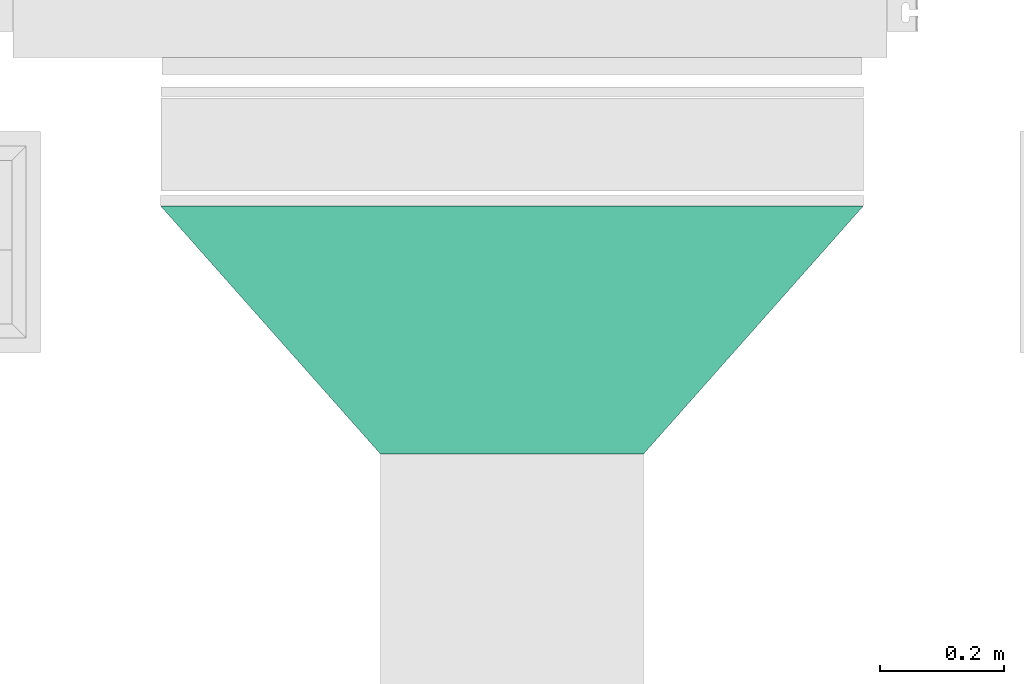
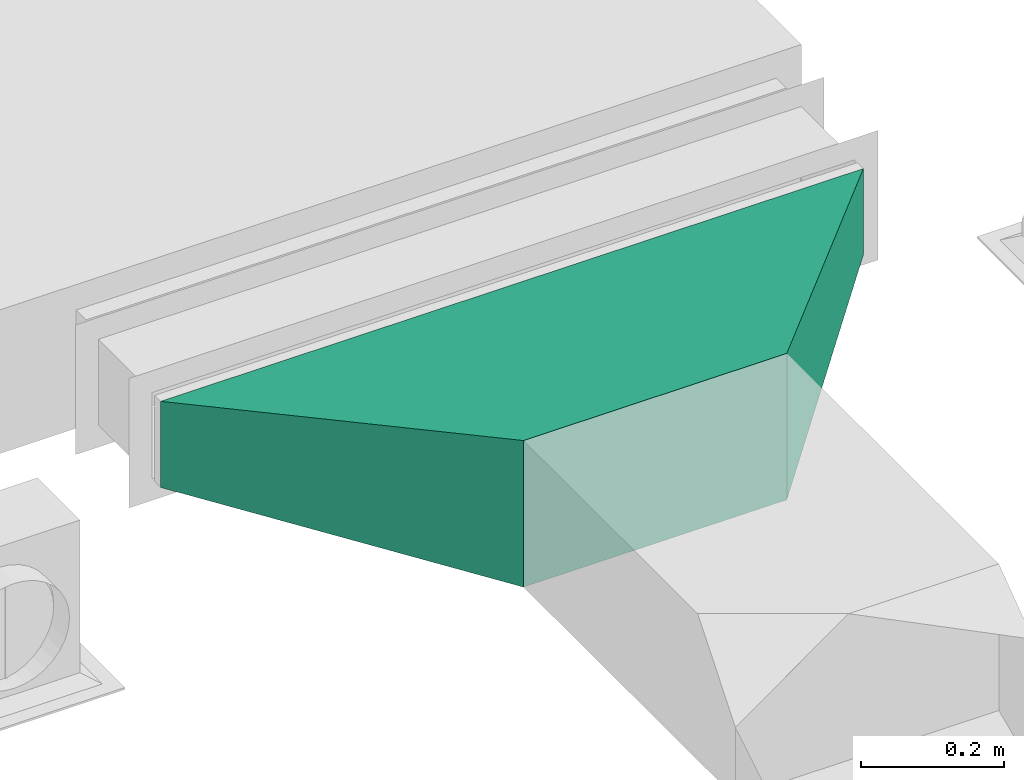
# One storey, part 15 of 22: 1 flow fitting.
"""IFC2X3 building model written with IfcOpenShell, lengths in millimetres."""

import ifcopenshell
import ifcopenshell.guid

model = None  # the IFC model being written
_history = None  # IfcOwnerHistory: only IFC2X3 demands one
_inside = {}  # id of a spatial element -> (the spatial element, [elements in it])
_under = {}  # id of a project, library or spatial element -> (it, [spatial elements below it])
_declared = {}  # id of a project -> (the project, [libraries it declares])
_typed = {}  # id of a type object -> (the type object, [elements of that type])
_made_of = {}  # id of a material, layer set ... -> (it, [elements and type objects made of it])


def new_model(schema):
    """Start an empty IFC model of exactly this schema.

    Asked for "IFC4X3", IfcOpenShell would pick the latest addendum, in which some entities
    have other attributes; the version numbers below select the first issue.
    IFC2X3 requires an IfcOwnerHistory on every rooted entity: one is made here for all.
    """
    global model, _history
    if schema == "IFC4X3":
        model = ifcopenshell.file(schema_version=(4, 3, 0, 0))
    else:
        model = ifcopenshell.file(schema=schema)
    _inside.clear()
    _under.clear()
    _declared.clear()
    _typed.clear()
    _made_of.clear()
    _history = None
    if model.schema == "IFC2X3":
        org = make("IfcOrganization", Name="unknown")
        user = make(
            "IfcPersonAndOrganization",
            ThePerson=make("IfcPerson", FamilyName="unknown"),
            TheOrganization=org,
        )
        app = make(
            "IfcApplication",
            ApplicationDeveloper=org,
            Version="unknown",
            ApplicationFullName="unknown",
            ApplicationIdentifier="unknown",
        )
        _history = make(
            "IfcOwnerHistory",
            OwningUser=user,
            OwningApplication=app,
            ChangeAction="ADDED",
            CreationDate=0,
        )
    return model


def make(cls, **values):
    """One entity of the class cls with the attributes given. An attribute that is None is left unset."""
    return model.create_entity(
        cls, **{name: value for name, value in values.items() if value is not None}
    )


def entity(cls, *values):
    """Any entity or typed value of the class cls, its attributes in the order of the schema. None: left unset."""
    e = model.create_entity(cls)
    for i, value in enumerate(values):
        if value is not None:
            e[i] = value
    return e


def rooted(cls, **values):
    """An entity with a GlobalId (a new one), such as an element, a storey or a relation."""
    return make(cls, GlobalId=ifcopenshell.guid.new(), OwnerHistory=_history, **values)


def si_unit(unit_type, name, prefix=None):
    """IfcSIUnit, for example si_unit("LENGTHUNIT", "METRE", prefix="MILLI")."""
    return make("IfcSIUnit", UnitType=unit_type, Prefix=prefix, Name=name)


def converted_unit(unit_type, name, factor, base, dimensions=None, offset=None):
    """IfcConversionBasedUnit, such as the inch: factor (a typed value) times the base unit."""
    return make(
        "IfcConversionBasedUnit"
        if offset is None
        else "IfcConversionBasedUnitWithOffset",
        ConversionOffset=offset,
        Dimensions=None
        if dimensions is None
        else entity("IfcDimensionalExponents", *dimensions),
        UnitType=unit_type,
        Name=name,
        ConversionFactor=make(
            "IfcMeasureWithUnit", ValueComponent=factor, UnitComponent=base
        ),
    )


def derived_unit(unit_type, elements):
    """IfcDerivedUnit: a product of units, each with its exponent."""
    return make(
        "IfcDerivedUnit",
        Elements=[
            make("IfcDerivedUnitElement", Unit=unit, Exponent=power)
            for unit, power in elements
        ],
        UnitType=unit_type,
    )


def assignment(units):
    """IfcUnitAssignment: the units of a project."""
    return None if units is None else make("IfcUnitAssignment", Units=units)


def point(xyz):
    """IfcCartesianPoint."""
    return None if xyz is None else make("IfcCartesianPoint", Coordinates=xyz)


def direction(xyz):
    """IfcDirection."""
    return None if xyz is None else make("IfcDirection", DirectionRatios=xyz)


def frame(location, z_axis=None, x_axis=None):
    """IfcAxis2Placement3D, a coordinate frame: its origin and axes. An axis left out is left unset."""
    return make(
        "IfcAxis2Placement3D",
        Location=point(location),
        Axis=direction(z_axis),
        RefDirection=direction(x_axis),
    )


def origin():
    """The frame at (0, 0, 0) with its axes left unset."""
    return frame((0.0, 0.0, 0.0))


def place(relative_to, where):
    """IfcLocalPlacement: puts the frame where relative to a parent placement (None: the world)."""
    return make(
        "IfcLocalPlacement", PlacementRelTo=relative_to, RelativePlacement=where
    )


def context(
    kind, dimensions, precision=None, world=None, true_north=None, identifier=None
):
    """IfcGeometricRepresentationContext, for example the 3D "Model" context."""
    return make(
        "IfcGeometricRepresentationContext",
        ContextIdentifier=identifier,
        ContextType=kind,
        CoordinateSpaceDimension=dimensions,
        Precision=precision,
        WorldCoordinateSystem=world,
        TrueNorth=true_north,
    )


def subcontext(parent, identifier, kind, view, scale=None):
    """IfcGeometricRepresentationSubContext, for example "Body" below "Model"."""
    return make(
        "IfcGeometricRepresentationSubContext",
        ContextIdentifier=identifier,
        ContextType=kind,
        ParentContext=parent,
        TargetScale=scale,
        TargetView=view,
    )


def project(units=None, contexts=None):
    """IfcProject with its units and contexts."""
    return rooted(
        "IfcProject",
        Name="project",
        RepresentationContexts=contexts,
        UnitsInContext=assignment(units),
    )


def spatial(cls, under=None, at=None, **own):
    """A site, building, storey or space (cls), placed at a placement, below another one or the project."""
    s = rooted(cls, ObjectPlacement=at, **own)
    if under is not None:
        _under.setdefault(under.id(), (under, []))[1].append(s)
    return s


def faces_of(points, faces, orient=None, outer=None):
    """IfcFace entities. A face is a list of loops; a loop is a list of indices into points, from 0.

    orient and outer hold one flag for each loop. By default every Orientation is true, the
    first loop of a face is its IfcFaceOuterBound and the others are IfcFaceBound.
    """
    made = []
    for i, loops in enumerate(faces):
        bounds = []
        for j, loop in enumerate(loops):
            is_outer = j == 0 if outer is None else outer[i][j]
            bounds.append(
                make(
                    "IfcFaceOuterBound" if is_outer else "IfcFaceBound",
                    Bound=make("IfcPolyLoop", Polygon=[points[k] for k in loop]),
                    Orientation=True if orient is None else orient[i][j],
                )
            )
        made.append(make("IfcFace", Bounds=bounds))
    return made


def faceted_brep(points, faces, orient=None, outer=None, voids=None):
    """IfcFacetedBrep: a solid bounded by flat faces; with voids (closed shells), ...WithVoids."""
    shared = [point(p) for p in points]
    hull = make("IfcClosedShell", CfsFaces=faces_of(shared, faces, orient, outer))
    if voids is None:
        return make("IfcFacetedBrep", Outer=hull)
    return make(
        "IfcFacetedBrepWithVoids",
        Outer=hull,
        Voids=[
            make(cls, CfsFaces=faces_of(shared, fs, o, b)) for cls, fs, o, b in voids
        ],
    )


def shape(context_of_items, identifier, shape_type, items):
    """IfcShapeRepresentation: the items that make up one representation, for example the "Body"."""
    return make(
        "IfcShapeRepresentation",
        ContextOfItems=context_of_items,
        RepresentationIdentifier=identifier,
        RepresentationType=shape_type,
        Items=items,
    )


def source(mapping_origin, context_of_items, identifier, shape_type, items):
    """IfcRepresentationMap: a shape defined once, which mapped items show again and again."""
    return make(
        "IfcRepresentationMap",
        MappingOrigin=mapping_origin,
        MappedRepresentation=shape(context_of_items, identifier, shape_type, items),
    )


def transform(
    local_origin,
    x_axis=None,
    y_axis=None,
    z_axis=None,
    scale=None,
    scale2=None,
    scale3=None,
    uniform=True,
):
    """IfcCartesianTransformationOperator3D, or its non-uniform kind. x_axis, y_axis, z_axis: its Axis1, 2, 3."""
    if uniform:
        return make(
            "IfcCartesianTransformationOperator3D",
            Axis1=direction(x_axis),
            Axis2=direction(y_axis),
            LocalOrigin=point(local_origin),
            Scale=scale,
            Axis3=direction(z_axis),
        )
    return make(
        "IfcCartesianTransformationOperator3DnonUniform",
        Axis1=direction(x_axis),
        Axis2=direction(y_axis),
        LocalOrigin=point(local_origin),
        Scale=scale,
        Axis3=direction(z_axis),
        Scale2=scale2,
        Scale3=scale3,
    )


def mapped(mapping_source, mapping_target):
    """IfcMappedItem: shows the shape of a source again, moved by a transform."""
    return make(
        "IfcMappedItem", MappingSource=mapping_source, MappingTarget=mapping_target
    )


def material(Name=None, Category=None):
    """IfcMaterial."""
    return make("IfcMaterial", Name=Name, Category=Category)


def made_of(thing, what):
    """Note that an element or type object is made of a material, layer set ...; save() writes the relation."""
    if what is not None:
        _made_of.setdefault(what.id(), (what, []))[1].append(thing)
    return thing


def type_object(cls, material=None, **own):
    """A type object (cls), such as IfcWallType, which elements share."""
    return made_of(rooted(cls, **own), material)


def type_shapes(of_type, sources):
    """Give a type object the sources (RepresentationMaps) that its elements show as mapped items."""
    of_type.RepresentationMaps = sources


def element(
    cls,
    number,
    at=None,
    inside=None,
    cuts=None,
    type_object=None,
    material=None,
    context=None,
    identifier="Body",
    shape_type=None,
    held_by="IfcProductDefinitionShape",
    body=None,
    shapes=None,
    **own,
):
    """One element of the class cls, such as IfcWall. Its Tag is "e" and its number.

    at: its placement. inside: the storey or other place that contains it. cuts: it is an
    opening in that element (IfcRelVoidsElement). A single representation is given by context,
    identifier, shape_type and body (its items); several are given by shapes. held_by: the class
    of the entity that holds the representations. save() writes the other relations.
    """
    e = rooted(cls, Tag="e%d" % number, ObjectPlacement=at, **own)
    if body is not None:
        shapes = [shape(context, identifier, shape_type, body)]
    if shapes is not None:
        e.Representation = make(held_by, Representations=shapes)
    if inside is not None:
        _inside.setdefault(inside.id(), (inside, []))[1].append(e)
    if cuts is not None:
        rooted(
            "IfcRelVoidsElement", RelatingBuildingElement=cuts, RelatedOpeningElement=e
        )
    if type_object is not None:
        _typed.setdefault(type_object.id(), (type_object, []))[1].append(e)
    return made_of(e, material)


def aggregate(whole, parts):
    """IfcRelAggregates: a whole, such as a stair, and the parts it consists of."""
    return rooted("IfcRelAggregates", RelatingObject=whole, RelatedObjects=parts)


def save(model, path):
    """Write the relations noted so far, then the file.

    IfcRelAggregates (storeys below a building ...), IfcRelContainedInSpatialStructure (elements
    in a storey), IfcRelDefinesByType, IfcRelAssociatesMaterial and IfcRelDeclares: one each for
    every whole, place, type object, material and project.
    """
    for whole, parts in _under.values():
        aggregate(whole, parts)
    for where, things in _inside.values():
        rooted(
            "IfcRelContainedInSpatialStructure",
            RelatedElements=things,
            RelatingStructure=where,
        )
    for kind, things in _typed.values():
        rooted("IfcRelDefinesByType", RelatedObjects=things, RelatingType=kind)
    for what, things in _made_of.values():
        rooted("IfcRelAssociatesMaterial", RelatedObjects=things, RelatingMaterial=what)
    for by, libraries in _declared.values():
        rooted("IfcRelDeclares", RelatingContext=by, RelatedDefinitions=libraries)
    model.write(path)


model = new_model("IFC2X3")

# Units and contexts
model_context = context("Model", 3, precision=0.01, world=origin(), true_north=direction((6.123233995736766e-17, 1.0)))
body_context = subcontext(model_context, "Body", "Model", "MODEL_VIEW")
ifc_project = project(units=[si_unit("LENGTHUNIT", "METRE", prefix="MILLI"), converted_unit("PLANEANGLEUNIT", "DEGREE", entity("IfcPlaneAngleMeasure", 0.017453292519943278), si_unit("PLANEANGLEUNIT", "RADIAN"), dimensions=[0, 0, 0, 0, 0, 0, 0]), si_unit("AREAUNIT", "SQUARE_METRE"), derived_unit("THERMALTRANSMITTANCEUNIT", [(si_unit("MASSUNIT", "GRAM", prefix="KILO"), 1), (si_unit("THERMODYNAMICTEMPERATUREUNIT", "KELVIN"), -1), (si_unit("TIMEUNIT", "SECOND"), -3)])], contexts=[model_context])

# Site, building, storey
site_placement = place(None, origin())
site = spatial("IfcSite", under=ifc_project, at=site_placement, Name="Default", CompositionType="ELEMENT")
building_placement = place(site_placement, origin())
building = spatial("IfcBuilding", under=site, at=building_placement, Name="Praça Pedro II, 1301 - Centro (Sul), Teresina - PI, 64001-100", CompositionType="ELEMENT")
storey_placement = place(building_placement, frame((0.0, 0.0, 320.0)))
storey = spatial("IfcBuildingStorey", under=building, at=storey_placement, Name="TÉRREO +0.32m", CompositionType="ELEMENT", Elevation=319.99999999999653)

# Flow fitting
ifc_material = material(Name="<Unnamed>")
duct_fitting_type = type_object("IfcDuctFittingType", Name="M_Rectangular Transition - L:400 mm (L)", PredefinedType="NOTDEFINED", material=ifc_material)
shared_shape = source(origin(), body_context, "Body", "Brep", [
    faceted_brep([(400.0, -567.0, 73.49999999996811), (400.0, -567.0, -73.50000000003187), (400.0, 567.0, -73.50000000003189), (400.0, 567.0, 73.49999999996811), (0.0, -212.50000000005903, 125.0), (0.0, 212.499999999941, 125.0), (0.0, 212.499999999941, -125.0), (0.0, -212.50000000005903, -125.0)], [[[0, 1, 2, 3]], [[4, 5, 6, 7]], [[4, 7, 1, 0]], [[7, 6, 2, 1]], [[6, 5, 3, 2]], [[5, 4, 0, 3]]]),
])
type_shapes(duct_fitting_type, [shared_shape])
flow_fitting_placement = place(storey_placement, frame((37584.97586072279, -53201.59690067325, 2243.4567470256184), z_axis=(0.0, 0.0, 1.0), x_axis=(0.0, 1.0, 0.0)))
element("IfcFlowFitting", 1, at=flow_fitting_placement, inside=storey, type_object=duct_fitting_type, material=ifc_material, Name="M_Rectangular Transition - L:400 mm (L)", ObjectType="M_Rectangular Transition - L:400 mm (L)", context=body_context, shape_type="MappedRepresentation", body=[
    mapped(shared_shape, transform((0.0, 0.0, 0.0), scale=1.0)),
])

save(model, "model.ifc")
